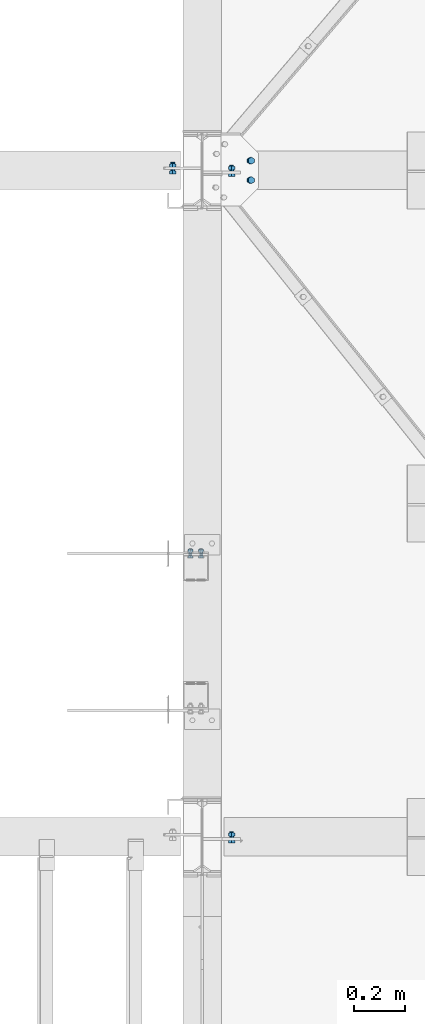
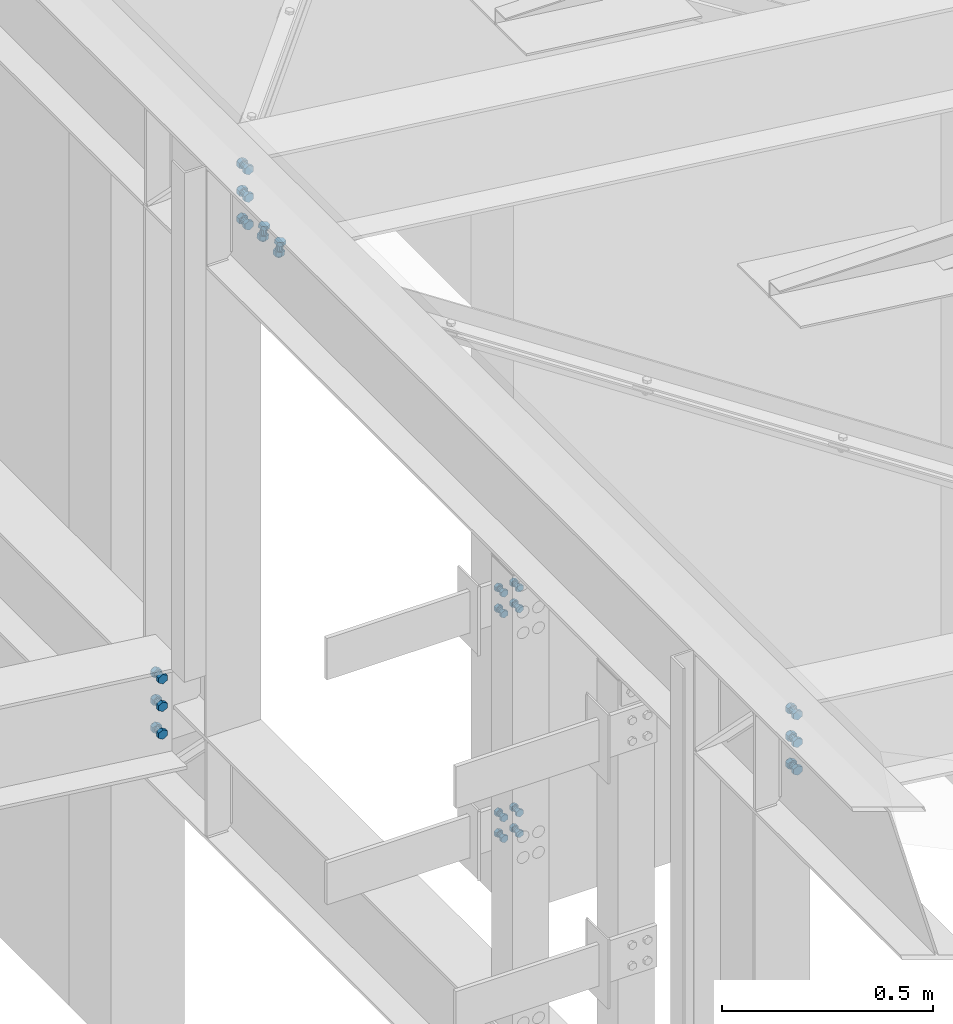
# One storey, part 373 of 3134: 6 mechanical fasteners, 4 elements without a shape of their own.
"""IFC2X3 building model written with IfcOpenShell, lengths in millimetres."""

from ifc_helpers import new_model, si_unit, frame, origin_with_axes, place, context, subcontext, project, spatial, faceted_brep, source, transform, mapped, material, type_object, element, aggregate, save


model = new_model("IFC2X3")

# Units and contexts
model_context = context("Model", 3, precision=1e-05, world=origin_with_axes())
body_context = subcontext(model_context, "Body", "Model", "MODEL_VIEW")
ifc_project = project(units=[si_unit("LENGTHUNIT", "METRE", prefix="MILLI"), si_unit("AREAUNIT", "SQUARE_METRE"), si_unit("VOLUMEUNIT", "CUBIC_METRE"), si_unit("MASSUNIT", "GRAM", prefix="KILO"), si_unit("TIMEUNIT", "SECOND"), si_unit("PLANEANGLEUNIT", "RADIAN"), si_unit("SOLIDANGLEUNIT", "STERADIAN"), si_unit("THERMODYNAMICTEMPERATUREUNIT", "DEGREE_CELSIUS"), si_unit("LUMINOUSINTENSITYUNIT", "LUMEN")], contexts=[model_context])

# Site, building, storey
site_placement = place(None, origin_with_axes())
site = spatial("IfcSite", under=ifc_project, at=site_placement, CompositionType="ELEMENT")
building_placement = place(site_placement, origin_with_axes())
building = spatial("IfcBuilding", under=site, at=building_placement, Name="Undefined", CompositionType="ELEMENT")
storey_placement = place(building_placement, origin_with_axes())
storey = spatial("IfcBuildingStorey", under=building, at=storey_placement, Name="Undefined", CompositionType="ELEMENT", Elevation=0.0)

# Assembly, mechanical fasteners
assembly_1_placement = place(storey_placement, origin_with_axes())
assembly_1 = element("IfcElementAssembly", 1, at=assembly_1_placement, inside=storey, AssemblyPlace="NOTDEFINED", PredefinedType="RIGID_FRAME")
ifc_material = material(Name="8.8")
mechanical_fastener_type = type_object("IfcMechanicalFastenerType", Name="Bolt assembly")
shared_shape_1 = source(origin_with_axes(), body_context, "Body", "Brep", [
    faceted_brep([(10.9696551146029, -12.0, 0.0), (5.48482755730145, -12.0, 9.5), (-5.48482755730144, -12.0, 9.5), (-10.9696551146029, -12.0, 1.34339530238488e-15), (-5.48482755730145, -12.0, -9.5), (5.48482755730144, -12.0, -9.50000000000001), (5.48482755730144, -4.0, -9.50000000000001), (-5.48482755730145, -4.0, -9.5), (-10.9696551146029, -4.0, 1.34339530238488e-15), (-5.48482755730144, -4.0, 9.5), (5.48482755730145, -4.0, 9.5), (10.9696551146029, -4.0, 0.0), (6.0, -4.0, 0.0), (5.19615242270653, -4.0, 3.00000000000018), (2.99999999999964, -4.0, 5.19615242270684), (-6.21801588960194e-13, -4.0, 6.0), (-3.00000000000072, -4.0, 5.19615242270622), (-5.19615242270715, -4.0, 2.9999999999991), (-6.0, -4.0, -1.24360317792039e-12), (-5.19615242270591, -4.0, -3.00000000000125), (-2.99999999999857, -4.0, -5.19615242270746), (1.85874342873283e-12, -4.0, -6.0), (3.00000000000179, -4.0, -5.1961524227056), (5.19615242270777, -4.0, -2.99999999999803), (5.19615242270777, 26.0, -2.99999999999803), (3.00000000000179, 26.0, -5.1961524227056), (1.85874342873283e-12, 26.0, -6.0), (-2.99999999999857, 26.0, -5.19615242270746), (-5.19615242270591, 26.0, -3.00000000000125), (-6.0, 26.0, -1.24360317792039e-12), (-5.19615242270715, 26.0, 2.9999999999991), (-3.00000000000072, 26.0, 5.19615242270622), (-6.21801588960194e-13, 26.0, 6.0), (2.99999999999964, 26.0, 5.19615242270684), (5.19615242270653, 26.0, 3.00000000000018), (6.0, 26.0, 0.0), (10.9696551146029, 12.0, 0.0), (5.48482755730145, 12.0, 9.5), (-5.48482755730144, 12.0, 9.5), (-10.9696551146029, 12.0, 1.34339530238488e-15), (-5.48482755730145, 12.0, -9.5), (5.48482755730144, 12.0, -9.50000000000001), (5.48482755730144, 22.0, -9.50000000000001), (-5.48482755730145, 22.0, -9.5), (-10.9696551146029, 22.0, 1.34339530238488e-15), (-5.48482755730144, 22.0, 9.5), (5.48482755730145, 22.0, 9.5), (10.9696551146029, 22.0, 0.0)], [[[0, 1, 2, 3, 4, 5]], [[6, 7, 8, 9, 10, 11]], [[0, 11, 10, 1]], [[1, 10, 9, 2]], [[2, 9, 8, 3]], [[3, 8, 7, 4]], [[4, 7, 6, 5]], [[5, 6, 11, 0]], [[12, 13, 14, 15, 16, 17, 18, 19, 20, 21, 22, 23]], [[24, 25, 26, 27, 28, 29, 30, 31, 32, 33, 34, 35]], [[12, 35, 34, 13]], [[13, 34, 33, 14]], [[14, 33, 32, 15]], [[15, 32, 31, 16]], [[16, 31, 30, 17]], [[17, 30, 29, 18]], [[18, 29, 28, 19]], [[19, 28, 27, 20]], [[20, 27, 26, 21]], [[21, 26, 25, 22]], [[22, 25, 24, 23]], [[23, 24, 35, 12]], [[36, 37, 38, 39, 40, 41]], [[42, 43, 44, 45, 46, 47]], [[36, 47, 46, 37]], [[37, 46, 45, 38]], [[38, 45, 44, 39]], [[39, 44, 43, 40]], [[40, 43, 42, 41]], [[41, 42, 47, 36]]]),
    faceted_brep([(7.0, -0.1, 0.0), (6.06217782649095, -0.1, 3.50000000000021), (3.49999999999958, -0.1, 6.06217782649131), (-7.25435187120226e-13, -0.1, 7.0), (-3.50000000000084, -0.1, 6.06217782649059), (-6.06217782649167, -0.1, 3.49999999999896), (-7.0, -0.1, -1.45087037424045e-12), (-6.06217782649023, -0.1, -3.50000000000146), (-3.49999999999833, -0.1, -6.06217782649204), (2.1685340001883e-12, -0.1, -7.0), (3.50000000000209, -0.1, -6.06217782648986), (6.0621778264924, -0.1, -3.4999999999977), (6.0621778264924, 12.0, -3.4999999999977), (3.50000000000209, 12.0, -6.06217782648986), (2.1685340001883e-12, 12.0, -7.0), (-3.49999999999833, 12.0, -6.06217782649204), (-6.06217782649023, 12.0, -3.50000000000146), (-7.0, 12.0, -1.45087037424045e-12), (-6.06217782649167, 12.0, 3.49999999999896), (-3.50000000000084, 12.0, 6.06217782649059), (-7.25435187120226e-13, 12.0, 7.0), (3.49999999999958, 12.0, 6.06217782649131), (6.06217782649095, 12.0, 3.50000000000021), (7.0, 12.0, 0.0), (7.0, -3.9, 0.0), (6.06217782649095, -3.9, 3.50000000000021), (3.49999999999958, -3.9, 6.06217782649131), (-7.25435187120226e-13, -3.9, 7.0), (-3.50000000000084, -3.9, 6.06217782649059), (-6.06217782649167, -3.9, 3.49999999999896), (-7.0, -3.9, -1.45087037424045e-12), (-6.06217782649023, -3.9, -3.50000000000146), (-3.49999999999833, -3.9, -6.06217782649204), (2.1685340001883e-12, -3.9, -7.0), (3.50000000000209, -3.9, -6.06217782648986), (6.0621778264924, -3.9, -3.4999999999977), (6.0621778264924, 0.0999999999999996, -3.4999999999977), (3.50000000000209, 0.0999999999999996, -6.06217782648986), (2.1685340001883e-12, 0.0999999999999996, -7.0), (-3.49999999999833, 0.0999999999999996, -6.06217782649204), (-6.06217782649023, 0.0999999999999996, -3.50000000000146), (-7.0, 0.0999999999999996, -1.45087037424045e-12), (-6.06217782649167, 0.0999999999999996, 3.49999999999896), (-3.50000000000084, 0.0999999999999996, 6.06217782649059), (-7.25435187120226e-13, 0.0999999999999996, 7.0), (3.49999999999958, 0.0999999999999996, 6.06217782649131), (6.06217782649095, 0.0999999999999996, 3.50000000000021), (7.0, 0.0999999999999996, 0.0)], [[[0, 1, 2, 3, 4, 5, 6, 7, 8, 9, 10, 11]], [[12, 13, 14, 15, 16, 17, 18, 19, 20, 21, 22, 23]], [[0, 23, 22, 1]], [[1, 22, 21, 2]], [[2, 21, 20, 3]], [[3, 20, 19, 4]], [[4, 19, 18, 5]], [[5, 18, 17, 6]], [[6, 17, 16, 7]], [[7, 16, 15, 8]], [[8, 15, 14, 9]], [[9, 14, 13, 10]], [[10, 13, 12, 11]], [[11, 12, 23, 0]], [[24, 25, 26, 27, 28, 29, 30, 31, 32, 33, 34, 35]], [[36, 37, 38, 39, 40, 41, 42, 43, 44, 45, 46, 47]], [[24, 47, 46, 25]], [[25, 46, 45, 26]], [[26, 45, 44, 27]], [[27, 44, 43, 28]], [[28, 43, 42, 29]], [[29, 42, 41, 30]], [[30, 41, 40, 31]], [[31, 40, 39, 32]], [[32, 39, 38, 33]], [[33, 38, 37, 34]], [[34, 37, 36, 35]], [[35, 36, 47, 24]]]),
])
mechanical_fastener_1_placement = place(assembly_1_placement, frame((67525.0, 23150.0, 4820.0), z_axis=(1.0, 0.0, 0.0), x_axis=(0.0, 0.0, -1.0)))
mechanical_fastener_1 = element("IfcMechanicalFastener", 2, at=mechanical_fastener_1_placement, type_object=mechanical_fastener_type, material=ifc_material, Name="Bolt assembly", NominalDiameter=12.0, NominalLength=30.0, context=body_context, shape_type="MappedRepresentation", body=[
    mapped(shared_shape_1, transform((0.0, 0.0, -21.0))),
    mapped(shared_shape_1, transform((60.0, 0.0, -21.0))),
    mapped(shared_shape_1, transform((0.0, 0.0, 21.0))),
    mapped(shared_shape_1, transform((60.0, 0.0, 21.0))),
])
mechanical_fastener_2_placement = place(assembly_1_placement, frame((67525.0, 23150.0, 5470.0), z_axis=(1.0, 0.0, 0.0), x_axis=(0.0, 0.0, -1.0)))
mechanical_fastener_2 = element("IfcMechanicalFastener", 3, at=mechanical_fastener_2_placement, type_object=mechanical_fastener_type, material=ifc_material, Name="Bolt assembly", NominalDiameter=12.0, NominalLength=30.0, context=body_context, shape_type="MappedRepresentation", body=[
    mapped(shared_shape_1, transform((0.0, 0.0, -21.0))),
    mapped(shared_shape_1, transform((60.0, 0.0, -21.0))),
    mapped(shared_shape_1, transform((0.0, 0.0, 21.0))),
    mapped(shared_shape_1, transform((60.0, 0.0, 21.0))),
])
aggregate(assembly_1, [mechanical_fastener_1, mechanical_fastener_2])

# Assembly, mechanical fastener
assembly_2_placement = place(storey_placement, origin_with_axes())
assembly_2 = element("IfcElementAssembly", 4, at=assembly_2_placement, inside=storey, Name="300", AssemblyPlace="NOTDEFINED", PredefinedType="RIGID_FRAME")
shared_shape_2 = source(origin_with_axes(), body_context, "Body", "Brep", [
    faceted_brep([(13.856406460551, -13.0499999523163, 0.0), (6.92820323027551, -13.0499999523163, 12.0), (-6.92820323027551, -13.0499999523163, 12.0), (-13.856406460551, -13.0499999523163, 1.69692038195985e-15), (-6.92820323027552, -13.0499999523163, -12.0), (6.9282032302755, -13.0499999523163, -12.0), (6.9282032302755, -3.04999995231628, -12.0), (-6.92820323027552, -3.04999995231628, -12.0), (-13.856406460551, -3.04999995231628, 1.69692038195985e-15), (-6.92820323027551, -3.04999995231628, 12.0), (6.92820323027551, -3.04999995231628, 12.0), (13.856406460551, -3.04999995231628, 0.0), (8.0, -3.04999995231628, 0.0), (6.92820323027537, -3.04999995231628, 4.00000000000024), (3.99999999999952, -3.04999995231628, 6.92820323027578), (-8.29068785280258e-13, -3.04999995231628, 8.0), (-4.00000000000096, -3.04999995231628, 6.92820323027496), (-6.9282032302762, -3.04999995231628, 3.99999999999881), (-8.0, -3.04999995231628, -1.65813757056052e-12), (-6.92820323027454, -3.04999995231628, -4.00000000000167), (-3.99999999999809, -3.04999995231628, -6.92820323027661), (2.47832457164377e-12, -3.04999995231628, -8.0), (4.00000000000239, -3.04999995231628, -6.92820323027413), (6.92820323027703, -3.04999995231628, -3.99999999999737), (6.92820323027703, 31.9500000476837, -3.99999999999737), (4.00000000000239, 31.9500000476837, -6.92820323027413), (2.47832457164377e-12, 31.9500000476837, -8.0), (-3.99999999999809, 31.9500000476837, -6.92820323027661), (-6.92820323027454, 31.9500000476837, -4.00000000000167), (-8.0, 31.9500000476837, -1.65813757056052e-12), (-6.9282032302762, 31.9500000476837, 3.99999999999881), (-4.00000000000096, 31.9500000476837, 6.92820323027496), (-8.29068785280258e-13, 31.9500000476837, 8.0), (3.99999999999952, 31.9500000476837, 6.92820323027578), (6.92820323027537, 31.9500000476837, 4.00000000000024), (8.0, 31.9500000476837, 0.0), (13.856406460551, 13.0500000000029, 0.0), (6.92820323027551, 13.0500000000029, 12.0), (-6.92820323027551, 13.0500000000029, 12.0), (-13.856406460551, 13.0500000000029, 1.69692038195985e-15), (-6.92820323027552, 13.0500000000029, -12.0), (6.9282032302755, 13.0500000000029, -12.0), (6.9282032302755, 26.0500000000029, -12.0), (-6.92820323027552, 26.0500000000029, -12.0), (-13.856406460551, 26.0500000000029, 1.69692038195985e-15), (-6.92820323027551, 26.0500000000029, 12.0), (6.92820323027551, 26.0500000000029, 12.0), (13.856406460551, 26.0500000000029, 0.0)], [[[0, 1, 2, 3, 4, 5]], [[6, 7, 8, 9, 10, 11]], [[0, 11, 10, 1]], [[1, 10, 9, 2]], [[2, 9, 8, 3]], [[3, 8, 7, 4]], [[4, 7, 6, 5]], [[5, 6, 11, 0]], [[12, 13, 14, 15, 16, 17, 18, 19, 20, 21, 22, 23]], [[24, 25, 26, 27, 28, 29, 30, 31, 32, 33, 34, 35]], [[12, 35, 34, 13]], [[13, 34, 33, 14]], [[14, 33, 32, 15]], [[15, 32, 31, 16]], [[16, 31, 30, 17]], [[17, 30, 29, 18]], [[18, 29, 28, 19]], [[19, 28, 27, 20]], [[20, 27, 26, 21]], [[21, 26, 25, 22]], [[22, 25, 24, 23]], [[23, 24, 35, 12]], [[36, 37, 38, 39, 40, 41]], [[42, 43, 44, 45, 46, 47]], [[36, 47, 46, 37]], [[37, 46, 45, 38]], [[38, 45, 44, 39]], [[39, 44, 43, 40]], [[40, 43, 42, 41]], [[41, 42, 47, 36]]]),
    faceted_brep([(9.0, 2.95000000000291, 0.0), (7.79422863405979, 2.95000000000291, 4.50000000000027), (4.49999999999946, 2.95000000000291, 7.79422863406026), (-9.3270238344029e-13, 2.95000000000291, 9.0), (-4.50000000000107, 2.95000000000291, 7.79422863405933), (-7.79422863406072, 2.95000000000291, 4.49999999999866), (-9.0, 2.95000000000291, -1.86540476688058e-12), (-7.79422863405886, 2.95000000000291, -4.50000000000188), (-4.49999999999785, 2.95000000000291, -7.79422863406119), (2.78811514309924e-12, 2.95000000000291, -9.0), (4.50000000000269, 2.95000000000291, -7.7942286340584), (7.79422863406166, 2.95000000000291, -4.49999999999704), (7.79422863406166, 13.0500000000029, -4.49999999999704), (4.50000000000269, 13.0500000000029, -7.7942286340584), (2.78811514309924e-12, 13.0500000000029, -9.0), (-4.49999999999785, 13.0500000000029, -7.79422863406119), (-7.79422863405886, 13.0500000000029, -4.50000000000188), (-9.0, 13.0500000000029, -1.86540476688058e-12), (-7.79422863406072, 13.0500000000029, 4.49999999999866), (-4.50000000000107, 13.0500000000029, 7.79422863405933), (-9.3270238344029e-13, 13.0500000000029, 9.0), (4.49999999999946, 13.0500000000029, 7.79422863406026), (7.79422863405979, 13.0500000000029, 4.50000000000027), (9.0, 13.0500000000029, 0.0), (9.0, -2.94999995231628, 0.0), (7.79422863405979, -2.94999995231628, 4.50000000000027), (4.49999999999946, -2.94999995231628, 7.79422863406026), (-9.3270238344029e-13, -2.94999995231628, 9.0), (-4.50000000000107, -2.94999995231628, 7.79422863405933), (-7.79422863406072, -2.94999995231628, 4.49999999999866), (-9.0, -2.94999995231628, -1.86540476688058e-12), (-7.79422863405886, -2.94999995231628, -4.50000000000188), (-4.49999999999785, -2.94999995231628, -7.79422863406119), (2.78811514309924e-12, -2.94999995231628, -9.0), (4.50000000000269, -2.94999995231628, -7.7942286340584), (7.79422863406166, -2.94999995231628, -4.49999999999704), (7.79422863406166, 3.14999995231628, -4.49999999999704), (4.50000000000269, 3.14999995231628, -7.7942286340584), (2.78811514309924e-12, 3.14999995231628, -9.0), (-4.49999999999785, 3.14999995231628, -7.79422863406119), (-7.79422863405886, 3.14999995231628, -4.50000000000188), (-9.0, 3.14999995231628, -1.86540476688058e-12), (-7.79422863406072, 3.14999995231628, 4.49999999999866), (-4.50000000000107, 3.14999995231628, 7.79422863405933), (-9.3270238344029e-13, 3.14999995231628, 9.0), (4.49999999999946, 3.14999995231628, 7.79422863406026), (7.79422863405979, 3.14999995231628, 4.50000000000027), (9.0, 3.14999995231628, 0.0)], [[[0, 1, 2, 3, 4, 5, 6, 7, 8, 9, 10, 11]], [[12, 13, 14, 15, 16, 17, 18, 19, 20, 21, 22, 23]], [[0, 23, 22, 1]], [[1, 22, 21, 2]], [[2, 21, 20, 3]], [[3, 20, 19, 4]], [[4, 19, 18, 5]], [[5, 18, 17, 6]], [[6, 17, 16, 7]], [[7, 16, 15, 8]], [[8, 15, 14, 9]], [[9, 14, 13, 10]], [[10, 13, 12, 11]], [[11, 12, 23, 0]], [[24, 25, 26, 27, 28, 29, 30, 31, 32, 33, 34, 35]], [[36, 37, 38, 39, 40, 41, 42, 43, 44, 45, 46, 47]], [[24, 47, 46, 25]], [[25, 46, 45, 26]], [[26, 45, 44, 27]], [[27, 44, 43, 28]], [[28, 43, 42, 29]], [[29, 42, 41, 30]], [[30, 41, 40, 31]], [[31, 40, 39, 32]], [[32, 39, 38, 33]], [[33, 38, 37, 34]], [[34, 37, 36, 35]], [[35, 36, 47, 24]]]),
])
mechanical_fastener_3_placement = place(assembly_2_placement, frame((67435.0, 24650.0, 4337.44269270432), z_axis=(1.0, 0.0, 0.0), x_axis=(0.0, 0.0, -1.0)))
mechanical_fastener_3 = element("IfcMechanicalFastener", 5, at=mechanical_fastener_3_placement, type_object=mechanical_fastener_type, material=ifc_material, Name="Bolt assembly", NominalDiameter=16.0, NominalLength=35.0, context=body_context, shape_type="MappedRepresentation", body=[
    mapped(shared_shape_2, transform((0.0, 0.0, 0.0))),
    mapped(shared_shape_2, transform((80.0, 0.0, 0.0))),
    mapped(shared_shape_2, transform((160.0, 0.0, 0.0))),
])
aggregate(assembly_2, [mechanical_fastener_3])

assembly_3_placement = place(storey_placement, origin_with_axes())
assembly_3 = element("IfcElementAssembly", 6, at=assembly_3_placement, inside=storey, Name="300", AssemblyPlace="NOTDEFINED", PredefinedType="RIGID_FRAME")
shared_shape_3 = source(origin_with_axes(), body_context, "Body", "Brep", [
    faceted_brep([(13.856406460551, -23.0499999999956, 0.0), (6.92820323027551, -23.0499999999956, 12.0), (-6.92820323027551, -23.0499999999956, 12.0), (-13.856406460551, -23.0499999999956, 1.69692038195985e-15), (-6.92820323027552, -23.0499999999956, -12.0), (6.9282032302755, -23.0499999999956, -12.0), (6.9282032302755, -13.0499999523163, -12.0), (-6.92820323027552, -13.0499999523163, -12.0), (-13.856406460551, -13.0499999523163, 1.69692038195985e-15), (-6.92820323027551, -13.0499999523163, 12.0), (6.92820323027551, -13.0499999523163, 12.0), (13.856406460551, -13.0499999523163, 0.0), (8.0, -13.0499999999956, 0.0), (6.92820323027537, -13.0499999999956, 4.00000000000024), (3.99999999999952, -13.0499999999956, 6.92820323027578), (-8.29068785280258e-13, -13.0499999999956, 8.0), (-4.00000000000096, -13.0499999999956, 6.92820323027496), (-6.9282032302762, -13.0499999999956, 3.99999999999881), (-8.0, -13.0499999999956, -1.65813757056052e-12), (-6.92820323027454, -13.0499999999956, -4.00000000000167), (-3.99999999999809, -13.0499999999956, -6.92820323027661), (2.47832457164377e-12, -13.0499999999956, -8.0), (4.00000000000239, -13.0499999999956, -6.92820323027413), (6.92820323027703, -13.0499999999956, -3.99999999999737), (6.92820323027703, 21.9500000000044, -3.99999999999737), (4.00000000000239, 21.9500000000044, -6.92820323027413), (2.47832457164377e-12, 21.9500000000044, -8.0), (-3.99999999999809, 21.9500000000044, -6.92820323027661), (-6.92820323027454, 21.9500000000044, -4.00000000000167), (-8.0, 21.9500000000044, -1.65813757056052e-12), (-6.9282032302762, 21.9500000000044, 3.99999999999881), (-4.00000000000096, 21.9500000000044, 6.92820323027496), (-8.29068785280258e-13, 21.9500000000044, 8.0), (3.99999999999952, 21.9500000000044, 6.92820323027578), (6.92820323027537, 21.9500000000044, 4.00000000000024), (8.0, 21.9500000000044, 0.0), (13.856406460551, 3.04999995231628, 0.0), (6.92820323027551, 3.04999995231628, 12.0), (-6.92820323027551, 3.04999995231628, 12.0), (-13.856406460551, 3.04999995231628, 1.69692038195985e-15), (-6.92820323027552, 3.04999995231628, -12.0), (6.9282032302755, 3.04999995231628, -12.0), (6.9282032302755, 16.0499999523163, -12.0), (-6.92820323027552, 16.0499999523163, -12.0), (-13.856406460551, 16.0499999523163, 1.69692038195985e-15), (-6.92820323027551, 16.0499999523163, 12.0), (6.92820323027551, 16.0499999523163, 12.0), (13.856406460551, 16.0499999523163, 0.0)], [[[0, 1, 2, 3, 4, 5]], [[6, 7, 8, 9, 10, 11]], [[0, 11, 10, 1]], [[1, 10, 9, 2]], [[2, 9, 8, 3]], [[3, 8, 7, 4]], [[4, 7, 6, 5]], [[5, 6, 11, 0]], [[12, 13, 14, 15, 16, 17, 18, 19, 20, 21, 22, 23]], [[24, 25, 26, 27, 28, 29, 30, 31, 32, 33, 34, 35]], [[12, 35, 34, 13]], [[13, 34, 33, 14]], [[14, 33, 32, 15]], [[15, 32, 31, 16]], [[16, 31, 30, 17]], [[17, 30, 29, 18]], [[18, 29, 28, 19]], [[19, 28, 27, 20]], [[20, 27, 26, 21]], [[21, 26, 25, 22]], [[22, 25, 24, 23]], [[23, 24, 35, 12]], [[36, 37, 38, 39, 40, 41]], [[42, 43, 44, 45, 46, 47]], [[36, 47, 46, 37]], [[37, 46, 45, 38]], [[38, 45, 44, 39]], [[39, 44, 43, 40]], [[40, 43, 42, 41]], [[41, 42, 47, 36]]]),
    faceted_brep([(9.0, -12.9499999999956, 0.0), (7.79422863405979, -12.9499999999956, 4.50000000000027), (4.49999999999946, -12.9499999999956, 7.79422863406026), (-9.3270238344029e-13, -12.9499999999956, 9.0), (-4.50000000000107, -12.9499999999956, 7.79422863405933), (-7.79422863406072, -12.9499999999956, 4.49999999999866), (-9.0, -12.9499999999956, -1.86540476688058e-12), (-7.79422863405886, -12.9499999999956, -4.50000000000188), (-4.49999999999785, -12.9499999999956, -7.79422863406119), (2.78811514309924e-12, -12.9499999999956, -9.0), (4.50000000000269, -12.9499999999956, -7.7942286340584), (7.79422863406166, -12.9499999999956, -4.49999999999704), (7.79422863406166, -2.94999995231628, -4.49999999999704), (4.50000000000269, -2.94999995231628, -7.7942286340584), (2.78811514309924e-12, -2.94999995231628, -9.0), (-4.49999999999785, -2.94999995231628, -7.79422863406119), (-7.79422863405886, -2.94999995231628, -4.50000000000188), (-9.0, -2.94999995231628, -1.86540476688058e-12), (-7.79422863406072, -2.94999995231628, 4.49999999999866), (-4.50000000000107, -2.94999995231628, 7.79422863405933), (-9.3270238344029e-13, -2.94999995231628, 9.0), (4.49999999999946, -2.94999995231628, 7.79422863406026), (7.79422863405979, -2.94999995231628, 4.50000000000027), (9.0, -2.94999995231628, 0.0), (9.0, -3.14999995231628, 0.0), (7.79422863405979, -3.14999995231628, 4.50000000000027), (4.49999999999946, -3.14999995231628, 7.79422863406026), (-9.3270238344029e-13, -3.14999995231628, 9.0), (-4.50000000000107, -3.14999995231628, 7.79422863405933), (-7.79422863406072, -3.14999995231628, 4.49999999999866), (-9.0, -3.14999995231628, -1.86540476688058e-12), (-7.79422863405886, -3.14999995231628, -4.50000000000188), (-4.49999999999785, -3.14999995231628, -7.79422863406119), (2.78811514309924e-12, -3.14999995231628, -9.0), (4.50000000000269, -3.14999995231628, -7.7942286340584), (7.79422863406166, -3.14999995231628, -4.49999999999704), (7.79422863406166, 3.04999995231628, -4.49999999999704), (4.50000000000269, 3.04999995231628, -7.7942286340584), (2.78811514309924e-12, 3.04999995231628, -9.0), (-4.49999999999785, 3.04999995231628, -7.79422863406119), (-7.79422863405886, 3.04999995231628, -4.50000000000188), (-9.0, 3.04999995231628, -1.86540476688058e-12), (-7.79422863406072, 3.04999995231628, 4.49999999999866), (-4.50000000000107, 3.04999995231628, 7.79422863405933), (-9.3270238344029e-13, 3.04999995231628, 9.0), (4.49999999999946, 3.04999995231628, 7.79422863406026), (7.79422863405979, 3.04999995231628, 4.50000000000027), (9.0, 3.04999995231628, 0.0)], [[[0, 1, 2, 3, 4, 5, 6, 7, 8, 9, 10, 11]], [[12, 13, 14, 15, 16, 17, 18, 19, 20, 21, 22, 23]], [[0, 23, 22, 1]], [[1, 22, 21, 2]], [[2, 21, 20, 3]], [[3, 20, 19, 4]], [[4, 19, 18, 5]], [[5, 18, 17, 6]], [[6, 17, 16, 7]], [[7, 16, 15, 8]], [[8, 15, 14, 9]], [[9, 14, 13, 10]], [[10, 13, 12, 11]], [[11, 12, 23, 0]], [[24, 25, 26, 27, 28, 29, 30, 31, 32, 33, 34, 35]], [[36, 37, 38, 39, 40, 41, 42, 43, 44, 45, 46, 47]], [[24, 47, 46, 25]], [[25, 46, 45, 26]], [[26, 45, 44, 27]], [[27, 44, 43, 28]], [[28, 43, 42, 29]], [[29, 42, 41, 30]], [[30, 41, 40, 31]], [[31, 40, 39, 32]], [[32, 39, 38, 33]], [[33, 38, 37, 34]], [[34, 37, 36, 35]], [[35, 36, 47, 24]]]),
])
mechanical_fastener_4_placement = place(assembly_3_placement, frame((67665.0, 24650.0, 5735.35014950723), z_axis=(1.0, 0.0, 0.0), x_axis=(0.0, 0.0, -1.0)))
mechanical_fastener_4 = element("IfcMechanicalFastener", 7, at=mechanical_fastener_4_placement, type_object=mechanical_fastener_type, material=ifc_material, Name="Bolt assembly", NominalDiameter=16.0, NominalLength=35.0, context=body_context, shape_type="MappedRepresentation", body=[
    mapped(shared_shape_3, transform((0.0, 0.0, 0.0))),
    mapped(shared_shape_3, transform((80.0, 0.0, 0.0))),
    mapped(shared_shape_3, transform((160.0, 0.0, 0.0))),
])

assembly_4_placement = place(storey_placement, origin_with_axes())
assembly_4 = element("IfcElementAssembly", 8, at=assembly_4_placement, inside=storey, Name="300", AssemblyPlace="NOTDEFINED", PredefinedType="RIGID_FRAME")
mechanical_fastener_5_placement = place(assembly_4_placement, frame((67665.0, 22050.0, 5735.35014950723), z_axis=(1.0, 0.0, 0.0), x_axis=(0.0, 0.0, -1.0)))
mechanical_fastener_5 = element("IfcMechanicalFastener", 9, at=mechanical_fastener_5_placement, type_object=mechanical_fastener_type, material=ifc_material, Name="Bolt assembly", NominalDiameter=16.0, NominalLength=35.0, context=body_context, shape_type="MappedRepresentation", body=[
    mapped(shared_shape_3, transform((0.0, 0.0, 0.0))),
    mapped(shared_shape_3, transform((80.0, 0.0, 0.0))),
    mapped(shared_shape_3, transform((160.0, 0.0, 0.0))),
])
aggregate(assembly_4, [mechanical_fastener_5])

# Mechanical fastener
shared_shape_4 = source(origin_with_axes(), body_context, "Body", "Brep", [
    faceted_brep([(13.856406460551, -19.2007835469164, 0.0), (6.92820323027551, -19.2007835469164, 12.0), (-6.92820323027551, -19.2007835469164, 12.0), (-13.856406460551, -19.2007835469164, 1.69692038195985e-15), (-6.92820323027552, -19.2007835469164, -12.0), (6.9282032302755, -19.2007835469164, -12.0), (6.9282032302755, -9.20078354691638, -12.0), (-6.92820323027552, -9.20078354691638, -12.0), (-13.856406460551, -9.20078354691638, 1.69692038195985e-15), (-6.92820323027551, -9.20078354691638, 12.0), (6.92820323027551, -9.20078354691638, 12.0), (13.856406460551, -9.20078354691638, 0.0), (8.0, -9.20078354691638, 0.0), (6.92820323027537, -9.20078354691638, 4.00000000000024), (3.99999999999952, -9.20078354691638, 6.92820323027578), (-8.29068785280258e-13, -9.20078354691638, 8.0), (-4.00000000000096, -9.20078354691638, 6.92820323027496), (-6.9282032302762, -9.20078354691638, 3.99999999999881), (-8.0, -9.20078354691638, -1.65813757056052e-12), (-6.92820323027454, -9.20078354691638, -4.00000000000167), (-3.99999999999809, -9.20078354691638, -6.92820323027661), (2.47832457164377e-12, -9.20078354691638, -8.0), (4.00000000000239, -9.20078354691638, -6.92820323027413), (6.92820323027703, -9.20078354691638, -3.99999999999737), (6.92820323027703, 25.7992164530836, -3.99999999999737), (4.00000000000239, 25.7992164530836, -6.92820323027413), (2.47832457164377e-12, 25.7992164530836, -8.0), (-3.99999999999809, 25.7992164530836, -6.92820323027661), (-6.92820323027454, 25.7992164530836, -4.00000000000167), (-8.0, 25.7992164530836, -1.65813757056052e-12), (-6.9282032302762, 25.7992164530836, 3.99999999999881), (-4.00000000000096, 25.7992164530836, 6.92820323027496), (-8.29068785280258e-13, 25.7992164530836, 8.0), (3.99999999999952, 25.7992164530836, 6.92820323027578), (6.92820323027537, 25.7992164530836, 4.00000000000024), (8.0, 25.7992164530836, 0.0), (13.856406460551, 8.00000637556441, 0.0), (6.92820323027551, 8.00000637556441, 12.0), (-6.92820323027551, 8.00000637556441, 12.0), (-13.856406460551, 8.00000637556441, 1.69692038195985e-15), (-6.92820323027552, 8.00000637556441, -12.0), (6.9282032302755, 8.00000637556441, -12.0), (6.9282032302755, 21.0000063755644, -12.0), (-6.92820323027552, 21.0000063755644, -12.0), (-13.856406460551, 21.0000063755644, 1.69692038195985e-15), (-6.92820323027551, 21.0000063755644, 12.0), (6.92820323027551, 21.0000063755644, 12.0), (13.856406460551, 21.0000063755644, 0.0)], [[[0, 1, 2, 3, 4, 5]], [[6, 7, 8, 9, 10, 11]], [[0, 11, 10, 1]], [[1, 10, 9, 2]], [[2, 9, 8, 3]], [[3, 8, 7, 4]], [[4, 7, 6, 5]], [[5, 6, 11, 0]], [[12, 13, 14, 15, 16, 17, 18, 19, 20, 21, 22, 23]], [[24, 25, 26, 27, 28, 29, 30, 31, 32, 33, 34, 35]], [[12, 35, 34, 13]], [[13, 34, 33, 14]], [[14, 33, 32, 15]], [[15, 32, 31, 16]], [[16, 31, 30, 17]], [[17, 30, 29, 18]], [[18, 29, 28, 19]], [[19, 28, 27, 20]], [[20, 27, 26, 21]], [[21, 26, 25, 22]], [[22, 25, 24, 23]], [[23, 24, 35, 12]], [[36, 37, 38, 39, 40, 41]], [[42, 43, 44, 45, 46, 47]], [[36, 47, 46, 37]], [[37, 46, 45, 38]], [[38, 45, 44, 39]], [[39, 44, 43, 40]], [[40, 43, 42, 41]], [[41, 42, 47, 36]]]),
    faceted_brep([(9.0, -0.1, 0.0), (7.79422863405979, -0.1, 4.50000000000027), (4.49999999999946, -0.1, 7.79422863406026), (-9.3270238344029e-13, -0.1, 9.0), (-4.50000000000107, -0.1, 7.79422863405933), (-7.79422863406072, -0.1, 4.49999999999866), (-9.0, -0.1, -1.86540476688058e-12), (-7.79422863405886, -0.1, -4.50000000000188), (-4.49999999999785, -0.1, -7.79422863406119), (2.78811514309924e-12, -0.1, -9.0), (4.50000000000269, -0.1, -7.7942286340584), (7.79422863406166, -0.1, -4.49999999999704), (7.79422863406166, 8.00000000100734, -4.49999999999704), (4.50000000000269, 8.00000000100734, -7.7942286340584), (2.78811514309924e-12, 8.00000000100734, -9.0), (-4.49999999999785, 8.00000000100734, -7.79422863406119), (-7.79422863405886, 8.00000000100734, -4.50000000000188), (-9.0, 8.00000000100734, -1.86540476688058e-12), (-7.79422863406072, 8.00000000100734, 4.49999999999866), (-4.50000000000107, 8.00000000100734, 7.79422863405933), (-9.3270238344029e-13, 8.00000000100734, 9.0), (4.49999999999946, 8.00000000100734, 7.79422863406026), (7.79422863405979, 8.00000000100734, 4.50000000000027), (9.0, 8.00000000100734, 0.0), (9.0, -9.10078354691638, 0.0), (7.79422863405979, -9.10078354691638, 4.50000000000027), (4.49999999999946, -9.10078354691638, 7.79422863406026), (-9.3270238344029e-13, -9.10078354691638, 9.0), (-4.50000000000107, -9.10078354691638, 7.79422863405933), (-7.79422863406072, -9.10078354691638, 4.49999999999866), (-9.0, -9.10078354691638, -1.86540476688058e-12), (-7.79422863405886, -9.10078354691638, -4.50000000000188), (-4.49999999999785, -9.10078354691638, -7.79422863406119), (2.78811514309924e-12, -9.10078354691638, -9.0), (4.50000000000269, -9.10078354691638, -7.7942286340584), (7.79422863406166, -9.10078354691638, -4.49999999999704), (7.79422863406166, 0.099199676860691, -4.49999999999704), (4.50000000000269, 0.099199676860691, -7.7942286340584), (2.78811514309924e-12, 0.099199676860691, -9.0), (-4.49999999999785, 0.099199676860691, -7.79422863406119), (-7.79422863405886, 0.099199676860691, -4.50000000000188), (-9.0, 0.099199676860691, -1.86540476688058e-12), (-7.79422863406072, 0.099199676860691, 4.49999999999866), (-4.50000000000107, 0.099199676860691, 7.79422863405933), (-9.3270238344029e-13, 0.099199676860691, 9.0), (4.49999999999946, 0.099199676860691, 7.79422863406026), (7.79422863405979, 0.099199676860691, 4.50000000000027), (9.0, 0.099199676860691, 0.0)], [[[0, 1, 2, 3, 4, 5, 6, 7, 8, 9, 10, 11]], [[12, 13, 14, 15, 16, 17, 18, 19, 20, 21, 22, 23]], [[0, 23, 22, 1]], [[1, 22, 21, 2]], [[2, 21, 20, 3]], [[3, 20, 19, 4]], [[4, 19, 18, 5]], [[5, 18, 17, 6]], [[6, 17, 16, 7]], [[7, 16, 15, 8]], [[8, 15, 14, 9]], [[9, 14, 13, 10]], [[10, 13, 12, 11]], [[11, 12, 23, 0]], [[24, 25, 26, 27, 28, 29, 30, 31, 32, 33, 34, 35]], [[36, 37, 38, 39, 40, 41, 42, 43, 44, 45, 46, 47]], [[24, 47, 46, 25]], [[25, 46, 45, 26]], [[26, 45, 44, 27]], [[27, 44, 43, 28]], [[28, 43, 42, 29]], [[29, 42, 41, 30]], [[30, 41, 40, 31]], [[31, 40, 39, 32]], [[32, 39, 38, 33]], [[33, 38, 37, 34]], [[34, 37, 36, 35]], [[35, 36, 47, 24]]]),
])
mechanical_fastener_6_placement = place(assembly_3_placement, frame((67739.2290254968, 24687.9995130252, 5496.67949211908), z_axis=(0.992623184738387, 1.63108538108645e-05, -0.12124031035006), x_axis=(1.62000016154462e-05, -0.999999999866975, -1.90000018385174e-06)))
mechanical_fastener_6 = element("IfcMechanicalFastener", 10, at=mechanical_fastener_6_placement, type_object=mechanical_fastener_type, material=ifc_material, Name="Bolt assembly", NominalDiameter=16.0, NominalLength=35.0, context=body_context, shape_type="MappedRepresentation", body=[
    mapped(shared_shape_4, transform((0.0, 0.0, 0.0))),
    mapped(shared_shape_4, transform((76.0, 0.0, 0.0))),
])

aggregate(assembly_3, [mechanical_fastener_6, mechanical_fastener_4])

save(model, "model.ifc")
